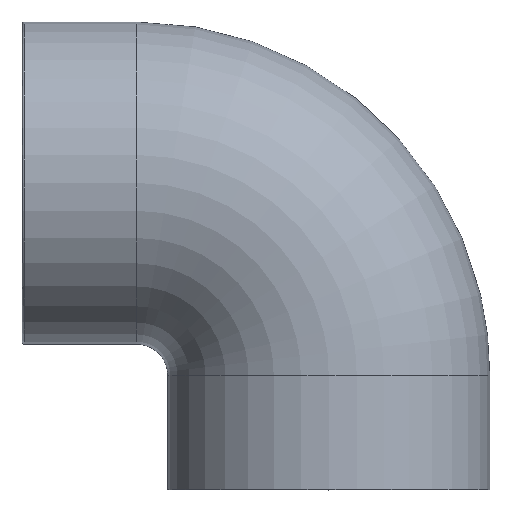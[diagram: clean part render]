
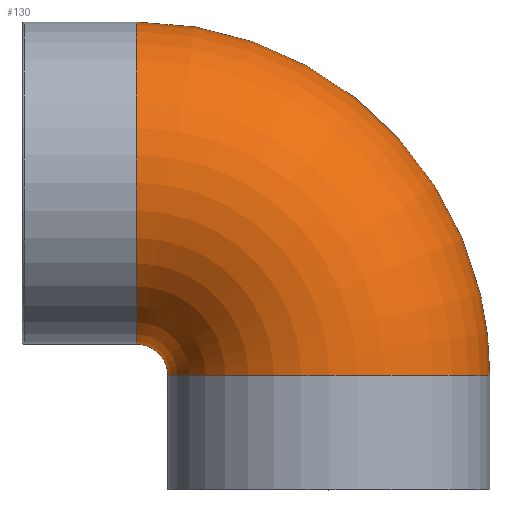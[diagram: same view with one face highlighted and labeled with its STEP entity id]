
A CAD part, top view. The second image highlights one B-rep face of the part: STEP entity #130.
In plain terms, the highlighted toroidal (fillet/blend) face has major radius 37 mm and minor radius 31 mm.
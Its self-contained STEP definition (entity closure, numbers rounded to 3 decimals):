
#28=FACE_BOUND('',#56,.T.);
#39=FACE_OUTER_BOUND('',#55,.T.);
#55=EDGE_LOOP('',(#110));
#56=EDGE_LOOP('',(#111));
#73=CIRCLE('',#150,31.);
#74=CIRCLE('',#151,31.);
#84=VERTEX_POINT('',#225);
#85=VERTEX_POINT('',#227);
#95=EDGE_CURVE('',#84,#84,#73,.T.);
#96=EDGE_CURVE('',#85,#85,#74,.T.);
#110=ORIENTED_EDGE('',*,*,#95,.T.);
#111=ORIENTED_EDGE('',*,*,#96,.T.);
#123=TOROIDAL_SURFACE('',#149,37.,31.);
#130=ADVANCED_FACE('',(#39,#28),#123,.T.);
#149=AXIS2_PLACEMENT_3D('',#224,#184,#185);
#150=AXIS2_PLACEMENT_3D('',#226,#186,#187);
#151=AXIS2_PLACEMENT_3D('',#228,#188,#189);
#184=DIRECTION('center_axis',(0.,0.,-1.));
#185=DIRECTION('ref_axis',(-1.,0.,0.));
#186=DIRECTION('center_axis',(0.,1.,0.));
#187=DIRECTION('ref_axis',(0.,0.,-1.));
#188=DIRECTION('center_axis',(1.,0.,0.));
#189=DIRECTION('ref_axis',(0.,0.,-1.));
#224=CARTESIAN_POINT('Origin',(-37.,-37.,0.));
#225=CARTESIAN_POINT('',(0.,-37.,31.));
#226=CARTESIAN_POINT('Origin',(0.,-37.,0.));
#227=CARTESIAN_POINT('',(-37.,0.,-31.));
#228=CARTESIAN_POINT('Origin',(-37.,0.,0.));
